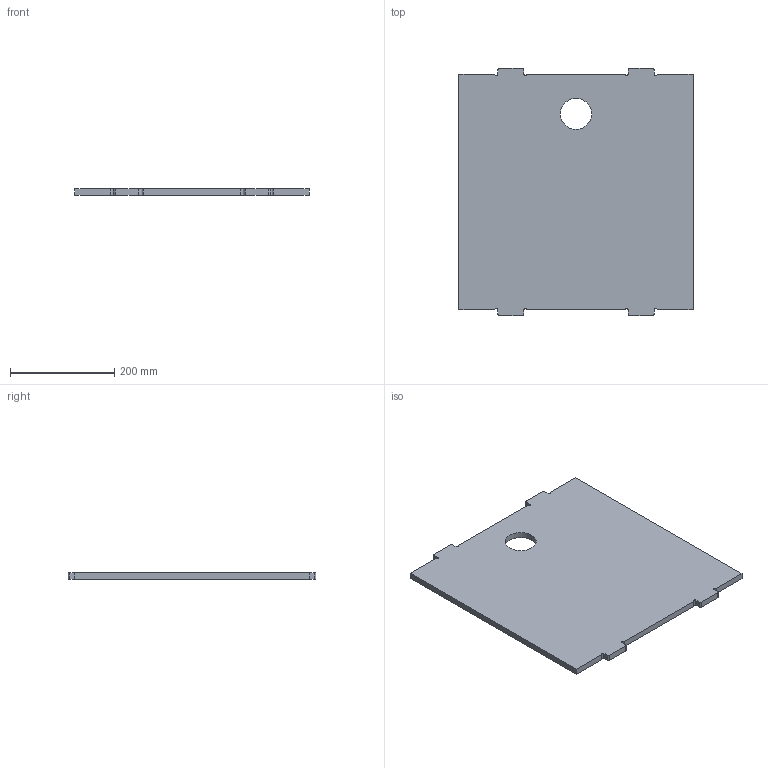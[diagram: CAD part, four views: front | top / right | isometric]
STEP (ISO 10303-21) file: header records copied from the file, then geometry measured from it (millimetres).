
FILE_DESCRIPTION(/* description */ (''),/* implementation_level */ '2;1');
FILE_NAME(/* name */ 'E:\curvepanel3.stp',/* time_stamp */ '2015-03-20T00:36:55+08:00',/* author */ ('s41632'),/* organization */ (''),/* preprocessor_version */ 'ST-DEVELOPER v15.2',/* originating_system */ 'Autodesk Inventor 2014',/* authorisation */ '');
FILE_SCHEMA (('AUTOMOTIVE_DESIGN { 1 0 10303 214 3 1 1 }'));
Length unit declared in the file: millimetre
Products named in the file (1): curvepanel3
Bounding box: 450 x 475.9 x 12 mm (x, y, z)
Volume: 2433559.4 mm3; surface area: 430858 mm2
Topology: 1 solids, 1 shells, 39 faces, 111 edges, 74 vertices
Faces by surface type: plane 22, cylinder 17
Full cylindrical faces by diameter (mm): 60 x1
Entity records: 1302 total; most frequent: DIRECTION 224, CARTESIAN_POINT 224, ORIENTED_EDGE 220, EDGE_CURVE 110, LINE 76, VECTOR 76, VERTEX_POINT 74, AXIS2_PLACEMENT_3D 74
